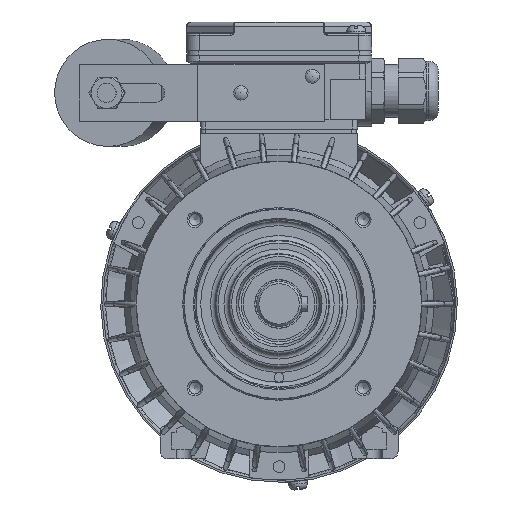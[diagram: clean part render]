
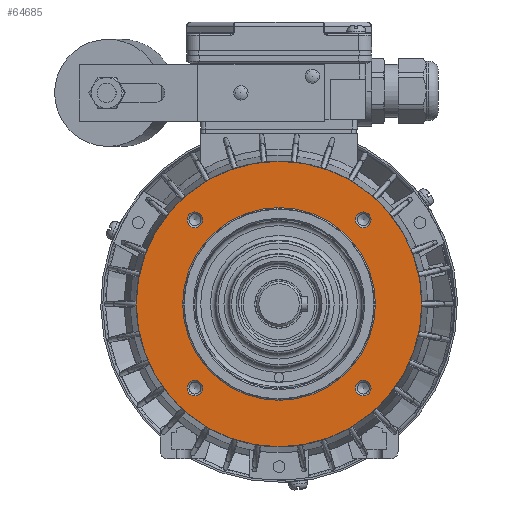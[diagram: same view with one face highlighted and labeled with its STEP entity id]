
A CAD part, left-side view. The second image highlights one B-rep face of the part: STEP entity #64685.
In plain terms, the highlighted planar face has unit normal (-1, 0, 0).
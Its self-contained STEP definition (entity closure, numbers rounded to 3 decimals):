
#8409=PLANE('',#68615);
#19853=ORIENTED_EDGE('',*,*,#29559,.T.);
#19854=ORIENTED_EDGE('',*,*,#29560,.T.);
#19855=ORIENTED_EDGE('',*,*,#29561,.T.);
#19856=ORIENTED_EDGE('',*,*,#29562,.T.);
#19857=ORIENTED_EDGE('',*,*,#29563,.T.);
#19858=ORIENTED_EDGE('',*,*,#29372,.T.);
#29372=EDGE_CURVE('',#35016,#35016,#38104,.T.);
#29559=EDGE_CURVE('',#35132,#35132,#38148,.F.);
#29560=EDGE_CURVE('',#35133,#35133,#38149,.F.);
#29561=EDGE_CURVE('',#35134,#35134,#38150,.F.);
#29562=EDGE_CURVE('',#35135,#35135,#38151,.F.);
#29563=EDGE_CURVE('',#35136,#35136,#38152,.F.);
#35016=VERTEX_POINT('',#101892);
#35132=VERTEX_POINT('',#103895);
#35133=VERTEX_POINT('',#103897);
#35134=VERTEX_POINT('',#103899);
#35135=VERTEX_POINT('',#103901);
#35136=VERTEX_POINT('',#103903);
#38104=CIRCLE('',#68502,60.);
#38148=CIRCLE('',#68616,3.3);
#38149=CIRCLE('',#68617,3.3);
#38150=CIRCLE('',#68618,3.3);
#38151=CIRCLE('',#68619,3.3);
#38152=CIRCLE('',#68620,40.5);
#40728=EDGE_LOOP('',(#19853));
#40729=EDGE_LOOP('',(#19854));
#40730=EDGE_LOOP('',(#19855));
#40731=EDGE_LOOP('',(#19856));
#40732=EDGE_LOOP('',(#19857));
#40733=EDGE_LOOP('',(#19858));
#43859=FACE_BOUND('',#40728,.T.);
#43860=FACE_BOUND('',#40729,.T.);
#43861=FACE_BOUND('',#40730,.T.);
#43862=FACE_BOUND('',#40731,.T.);
#43863=FACE_BOUND('',#40732,.T.);
#43864=FACE_BOUND('',#40733,.T.);
#64685=ADVANCED_FACE('',(#43859,#43860,#43861,#43862,#43863,#43864),#8409,
 .T.);
#68502=AXIS2_PLACEMENT_3D('',#101891,#78259,#78260);
#68615=AXIS2_PLACEMENT_3D('',#103893,#78527,#78528);
#68616=AXIS2_PLACEMENT_3D('',#103894,#78529,#78530);
#68617=AXIS2_PLACEMENT_3D('',#103896,#78531,#78532);
#68618=AXIS2_PLACEMENT_3D('',#103898,#78533,#78534);
#68619=AXIS2_PLACEMENT_3D('',#103900,#78535,#78536);
#68620=AXIS2_PLACEMENT_3D('',#103902,#78537,#78538);
#78259=DIRECTION('',(-1.,0.,0.));
#78260=DIRECTION('',(0.,0.,-1.));
#78527=DIRECTION('',(-1.,0.,0.));
#78528=DIRECTION('',(0.,0.,-1.));
#78529=DIRECTION('',(-1.,0.,0.));
#78530=DIRECTION('',(0.,0.,-1.));
#78531=DIRECTION('',(-1.,0.,0.));
#78532=DIRECTION('',(0.,0.,-1.));
#78533=DIRECTION('',(-1.,0.,0.));
#78534=DIRECTION('',(0.,0.,-1.));
#78535=DIRECTION('',(-1.,0.,0.));
#78536=DIRECTION('',(0.,0.,-1.));
#78537=DIRECTION('',(-1.,0.,0.));
#78538=DIRECTION('',(0.,0.,-1.));
#101891=CARTESIAN_POINT('',(-44.8,0.,0.));
#101892=CARTESIAN_POINT('',(-44.8,0.,-60.));
#103893=CARTESIAN_POINT('',(-44.8,0.,40.));
#103894=CARTESIAN_POINT('',(-44.8,35.355,-35.355));
#103895=CARTESIAN_POINT('',(-44.8,35.355,-38.655));
#103896=CARTESIAN_POINT('',(-44.8,-35.355,-35.355));
#103897=CARTESIAN_POINT('',(-44.8,-35.355,-38.655));
#103898=CARTESIAN_POINT('',(-44.8,-35.355,35.355));
#103899=CARTESIAN_POINT('',(-44.8,-35.355,32.055));
#103900=CARTESIAN_POINT('',(-44.8,35.355,35.355));
#103901=CARTESIAN_POINT('',(-44.8,35.355,32.055));
#103902=CARTESIAN_POINT('',(-44.8,0.,0.));
#103903=CARTESIAN_POINT('',(-44.8,0.,-40.5));
